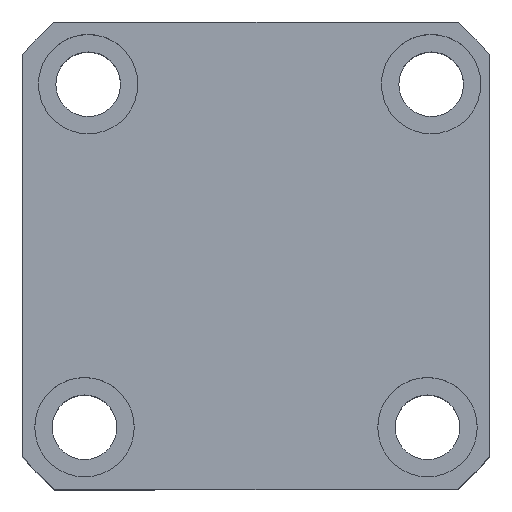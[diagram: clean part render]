
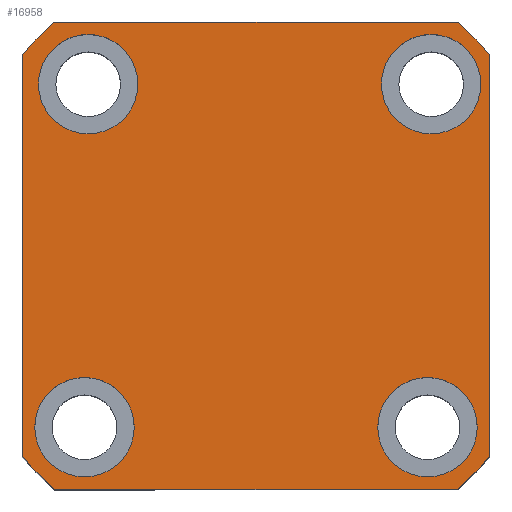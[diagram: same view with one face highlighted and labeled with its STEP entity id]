
A CAD part, top view. The second image highlights one B-rep face of the part: STEP entity #16958.
In plain terms, the highlighted planar face has unit normal (0, 0, 1) as drawn and (0, 0, -1) by its records, which use the part's own axes.
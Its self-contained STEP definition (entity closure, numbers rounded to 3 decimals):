
#18 = CIRCLE ( 'NONE', #11180, 10. ) ;
#27 = VERTEX_POINT ( 'NONE', #15947 ) ;
#118 = DIRECTION ( 'NONE',  ( 0., 0., 1. ) ) ;
#121 = AXIS2_PLACEMENT_3D ( 'NONE', #17721, #9493, #1308 ) ;
#166 = VERTEX_POINT ( 'NONE', #16761 ) ;
#286 = CIRCLE ( 'NONE', #1673, 62. ) ;
#288 = CIRCLE ( 'NONE', #17370, 10. ) ;
#512 = CIRCLE ( 'NONE', #12420, 10. ) ;
#590 = VERTEX_POINT ( 'NONE', #10678 ) ;
#684 = AXIS2_PLACEMENT_3D ( 'NONE', #3000, #12505, #4358 ) ;
#766 = CARTESIAN_POINT ( 'NONE',  ( 0., 0., 0. ) ) ;
#783 = EDGE_LOOP ( 'NONE', ( #16258, #16464 ) ) ;
#973 = LINE ( 'NONE', #6984, #4257 ) ;
#1078 = CARTESIAN_POINT ( 'NONE',  ( 0., 0., 0. ) ) ;
#1152 = DIRECTION ( 'NONE',  ( 0., 0., -1. ) ) ;
#1283 = CIRCLE ( 'NONE', #5664, 10. ) ;
#1308 = DIRECTION ( 'NONE',  ( 1., 0., 0. ) ) ;
#1673 = AXIS2_PLACEMENT_3D ( 'NONE', #8400, #118, #9734 ) ;
#1784 = CARTESIAN_POINT ( 'NONE',  ( -40.435, 47., 0. ) ) ;
#1816 = CARTESIAN_POINT ( 'NONE',  ( -43.77, -34.5, 0. ) ) ;
#1854 = VERTEX_POINT ( 'NONE', #10193 ) ;
#1898 = EDGE_CURVE ( 'NONE', #7529, #16690, #4765, .T. ) ;
#2179 = DIRECTION ( 'NONE',  ( 0., 0., 1. ) ) ;
#2224 = DIRECTION ( 'NONE',  ( 1., 0., 0. ) ) ;
#2503 = CIRCLE ( 'NONE', #5373, 10. ) ;
#2527 = PLANE ( 'NONE',  #17178 ) ;
#2563 = ORIENTED_EDGE ( 'NONE', *, *, #7045, .F. ) ;
#2765 = AXIS2_PLACEMENT_3D ( 'NONE', #11381, #3259, #12777 ) ;
#2875 = EDGE_CURVE ( 'NONE', #27, #1854, #1283, .T. ) ;
#3000 = CARTESIAN_POINT ( 'NONE',  ( -34.5, 34.5, 0. ) ) ;
#3220 = FACE_BOUND ( 'NONE', #14504, .T. ) ;
#3257 = CARTESIAN_POINT ( 'NONE',  ( 34.5, 34.5, 0. ) ) ;
#3259 = DIRECTION ( 'NONE',  ( 0., 0., -1. ) ) ;
#3295 = CARTESIAN_POINT ( 'NONE',  ( 24.5, 34.5, 0. ) ) ;
#3893 = DIRECTION ( 'NONE',  ( 1., 0., 0. ) ) ;
#3924 = ORIENTED_EDGE ( 'NONE', *, *, #9990, .F. ) ;
#4016 = CIRCLE ( 'NONE', #684, 10. ) ;
#4257 = VECTOR ( 'NONE', #5737, 1000. ) ;
#4358 = DIRECTION ( 'NONE',  ( -1., 0., 0. ) ) ;
#4477 = ORIENTED_EDGE ( 'NONE', *, *, #2875, .F. ) ;
#4522 = DIRECTION ( 'NONE',  ( 0., 0., -1. ) ) ;
#4574 = CARTESIAN_POINT ( 'NONE',  ( -40.435, -47., 0. ) ) ;
#4610 = DIRECTION ( 'NONE',  ( -1., 0., 0. ) ) ;
#4642 = ORIENTED_EDGE ( 'NONE', *, *, #11253, .F. ) ;
#4674 = EDGE_CURVE ( 'NONE', #17067, #8646, #973, .T. ) ;
#4765 = CIRCLE ( 'NONE', #7838, 62. ) ;
#4891 = DIRECTION ( 'NONE',  ( 0., 0., -1. ) ) ;
#4896 = CIRCLE ( 'NONE', #8026, 62. ) ;
#5346 = EDGE_LOOP ( 'NONE', ( #6902, #4477 ) ) ;
#5359 = ORIENTED_EDGE ( 'NONE', *, *, #10279, .F. ) ;
#5373 = AXIS2_PLACEMENT_3D ( 'NONE', #13058, #4891, #14413 ) ;
#5493 = CARTESIAN_POINT ( 'NONE',  ( 47., 47., 0. ) ) ;
#5608 = CARTESIAN_POINT ( 'NONE',  ( -47., -40.435, 0. ) ) ;
#5664 = AXIS2_PLACEMENT_3D ( 'NONE', #12680, #4522, #14049 ) ;
#5737 = DIRECTION ( 'NONE',  ( -1., 0., 0. ) ) ;
#5893 = EDGE_CURVE ( 'NONE', #8167, #12687, #17259, .T. ) ;
#6175 = CARTESIAN_POINT ( 'NONE',  ( 40.435, -47., 0. ) ) ;
#6356 = VECTOR ( 'NONE', #15522, 1000. ) ;
#6432 = EDGE_CURVE ( 'NONE', #166, #13524, #512, .T. ) ;
#6552 = CARTESIAN_POINT ( 'NONE',  ( -44.5, 34.5, 0. ) ) ;
#6817 = CARTESIAN_POINT ( 'NONE',  ( -47., 40.435, 0. ) ) ;
#6819 = DIRECTION ( 'NONE',  ( 0., 0., -1. ) ) ;
#6902 = ORIENTED_EDGE ( 'NONE', *, *, #10662, .F. ) ;
#6984 = CARTESIAN_POINT ( 'NONE',  ( -47., 47., 0. ) ) ;
#7039 = EDGE_CURVE ( 'NONE', #12687, #13585, #286, .T. ) ;
#7045 = EDGE_CURVE ( 'NONE', #590, #8286, #4016, .T. ) ;
#7373 = CARTESIAN_POINT ( 'NONE',  ( -47., 47., 0. ) ) ;
#7434 = LINE ( 'NONE', #5493, #14251 ) ;
#7529 = VERTEX_POINT ( 'NONE', #6175 ) ;
#7700 = EDGE_LOOP ( 'NONE', ( #4642, #12118 ) ) ;
#7838 = AXIS2_PLACEMENT_3D ( 'NONE', #10302, #2179, #11699 ) ;
#7938 = DIRECTION ( 'NONE',  ( 0., 0., -1. ) ) ;
#8026 = AXIS2_PLACEMENT_3D ( 'NONE', #766, #10342, #2224 ) ;
#8106 = CARTESIAN_POINT ( 'NONE',  ( 44.5, 34.5, 0. ) ) ;
#8144 = CARTESIAN_POINT ( 'NONE',  ( 47., 40.435, 0. ) ) ;
#8164 = VERTEX_POINT ( 'NONE', #8144 ) ;
#8167 = VERTEX_POINT ( 'NONE', #6817 ) ;
#8286 = VERTEX_POINT ( 'NONE', #6552 ) ;
#8400 = CARTESIAN_POINT ( 'NONE',  ( 0., 0., 0. ) ) ;
#8646 = VERTEX_POINT ( 'NONE', #1784 ) ;
#9356 = CARTESIAN_POINT ( 'NONE',  ( -33.77, -34.5, 0. ) ) ;
#9493 = DIRECTION ( 'NONE',  ( 0., 0., 1. ) ) ;
#9552 = VECTOR ( 'NONE', #15072, 1000. ) ;
#9734 = DIRECTION ( 'NONE',  ( 1., 0., 0. ) ) ;
#9990 = EDGE_CURVE ( 'NONE', #8286, #590, #12946, .T. ) ;
#10193 = CARTESIAN_POINT ( 'NONE',  ( 25.23, -34.5, 0. ) ) ;
#10279 = EDGE_CURVE ( 'NONE', #16690, #8164, #7434, .T. ) ;
#10302 = CARTESIAN_POINT ( 'NONE',  ( 0., 0., 0. ) ) ;
#10342 = DIRECTION ( 'NONE',  ( 0., 0., 1. ) ) ;
#10401 = FACE_BOUND ( 'NONE', #5346, .T. ) ;
#10662 = EDGE_CURVE ( 'NONE', #1854, #27, #12979, .T. ) ;
#10678 = CARTESIAN_POINT ( 'NONE',  ( -24.5, 34.5, 0. ) ) ;
#10713 = DIRECTION ( 'NONE',  ( -1., 0., 0. ) ) ;
#10919 = ORIENTED_EDGE ( 'NONE', *, *, #1898, .F. ) ;
#11180 = AXIS2_PLACEMENT_3D ( 'NONE', #3257, #12772, #4610 ) ;
#11253 = EDGE_CURVE ( 'NONE', #13524, #166, #288, .T. ) ;
#11381 = CARTESIAN_POINT ( 'NONE',  ( 35.23, -34.5, 0. ) ) ;
#11684 = CARTESIAN_POINT ( 'NONE',  ( 47., -40.435, 0. ) ) ;
#11699 = DIRECTION ( 'NONE',  ( 1., 0., 0. ) ) ;
#11731 = EDGE_LOOP ( 'NONE', ( #14290, #5359, #10919, #14436, #16310, #13310, #17268, #14640 ) ) ;
#12032 = DIRECTION ( 'NONE',  ( 0., 0., 1. ) ) ;
#12118 = ORIENTED_EDGE ( 'NONE', *, *, #6432, .F. ) ;
#12172 = EDGE_CURVE ( 'NONE', #8646, #8167, #14649, .T. ) ;
#12346 = CARTESIAN_POINT ( 'NONE',  ( 40.435, 47., 0. ) ) ;
#12420 = AXIS2_PLACEMENT_3D ( 'NONE', #9356, #1152, #10713 ) ;
#12505 = DIRECTION ( 'NONE',  ( 0., 0., -1. ) ) ;
#12680 = CARTESIAN_POINT ( 'NONE',  ( 35.23, -34.5, 0. ) ) ;
#12687 = VERTEX_POINT ( 'NONE', #5608 ) ;
#12772 = DIRECTION ( 'NONE',  ( 0., 0., -1. ) ) ;
#12777 = DIRECTION ( 'NONE',  ( -1., 0., 0. ) ) ;
#12946 = CIRCLE ( 'NONE', #14375, 10. ) ;
#12979 = CIRCLE ( 'NONE', #2765, 10. ) ;
#13058 = CARTESIAN_POINT ( 'NONE',  ( 34.5, 34.5, 0. ) ) ;
#13310 = ORIENTED_EDGE ( 'NONE', *, *, #5893, .F. ) ;
#13524 = VERTEX_POINT ( 'NONE', #1816 ) ;
#13585 = VERTEX_POINT ( 'NONE', #4574 ) ;
#13591 = CARTESIAN_POINT ( 'NONE',  ( -47., -47., 0. ) ) ;
#13635 = FACE_OUTER_BOUND ( 'NONE', #11731, .T. ) ;
#13913 = EDGE_CURVE ( 'NONE', #14693, #15318, #18, .T. ) ;
#14049 = DIRECTION ( 'NONE',  ( -1., 0., 0. ) ) ;
#14068 = FACE_BOUND ( 'NONE', #7700, .T. ) ;
#14248 = EDGE_CURVE ( 'NONE', #15318, #14693, #2503, .T. ) ;
#14251 = VECTOR ( 'NONE', #15023, 1000. ) ;
#14290 = ORIENTED_EDGE ( 'NONE', *, *, #16663, .F. ) ;
#14375 = AXIS2_PLACEMENT_3D ( 'NONE', #14984, #6819, #16361 ) ;
#14413 = DIRECTION ( 'NONE',  ( -1., 0., 0. ) ) ;
#14436 = ORIENTED_EDGE ( 'NONE', *, *, #17070, .F. ) ;
#14504 = EDGE_LOOP ( 'NONE', ( #3924, #2563 ) ) ;
#14640 = ORIENTED_EDGE ( 'NONE', *, *, #4674, .F. ) ;
#14649 = CIRCLE ( 'NONE', #121, 62. ) ;
#14693 = VERTEX_POINT ( 'NONE', #8106 ) ;
#14984 = CARTESIAN_POINT ( 'NONE',  ( -34.5, 34.5, 0. ) ) ;
#15023 = DIRECTION ( 'NONE',  ( 0., 1., 0. ) ) ;
#15072 = DIRECTION ( 'NONE',  ( 1., 0., 0. ) ) ;
#15318 = VERTEX_POINT ( 'NONE', #3295 ) ;
#15522 = DIRECTION ( 'NONE',  ( 0., -1., 0. ) ) ;
#15947 = CARTESIAN_POINT ( 'NONE',  ( 45.23, -34.5, 0. ) ) ;
#16083 = CARTESIAN_POINT ( 'NONE',  ( -33.77, -34.5, 0. ) ) ;
#16258 = ORIENTED_EDGE ( 'NONE', *, *, #14248, .F. ) ;
#16310 = ORIENTED_EDGE ( 'NONE', *, *, #7039, .F. ) ;
#16361 = DIRECTION ( 'NONE',  ( -1., 0., 0. ) ) ;
#16464 = ORIENTED_EDGE ( 'NONE', *, *, #13913, .F. ) ;
#16663 = EDGE_CURVE ( 'NONE', #8164, #17067, #4896, .T. ) ;
#16690 = VERTEX_POINT ( 'NONE', #11684 ) ;
#16761 = CARTESIAN_POINT ( 'NONE',  ( -23.77, -34.5, 0. ) ) ;
#16854 = LINE ( 'NONE', #13591, #9552 ) ;
#16958 = ADVANCED_FACE ( 'NONE', ( #10401, #14068, #3220, #17282, #13635 ), #2527, .F. ) ;
#17067 = VERTEX_POINT ( 'NONE', #12346 ) ;
#17070 = EDGE_CURVE ( 'NONE', #13585, #7529, #16854, .T. ) ;
#17178 = AXIS2_PLACEMENT_3D ( 'NONE', #1078, #12032, #3893 ) ;
#17259 = LINE ( 'NONE', #7373, #6356 ) ;
#17268 = ORIENTED_EDGE ( 'NONE', *, *, #12172, .F. ) ;
#17282 = FACE_BOUND ( 'NONE', #783, .T. ) ;
#17370 = AXIS2_PLACEMENT_3D ( 'NONE', #16083, #7938, #17491 ) ;
#17491 = DIRECTION ( 'NONE',  ( -1., 0., 0. ) ) ;
#17721 = CARTESIAN_POINT ( 'NONE',  ( 0., 0., 0. ) ) ;
